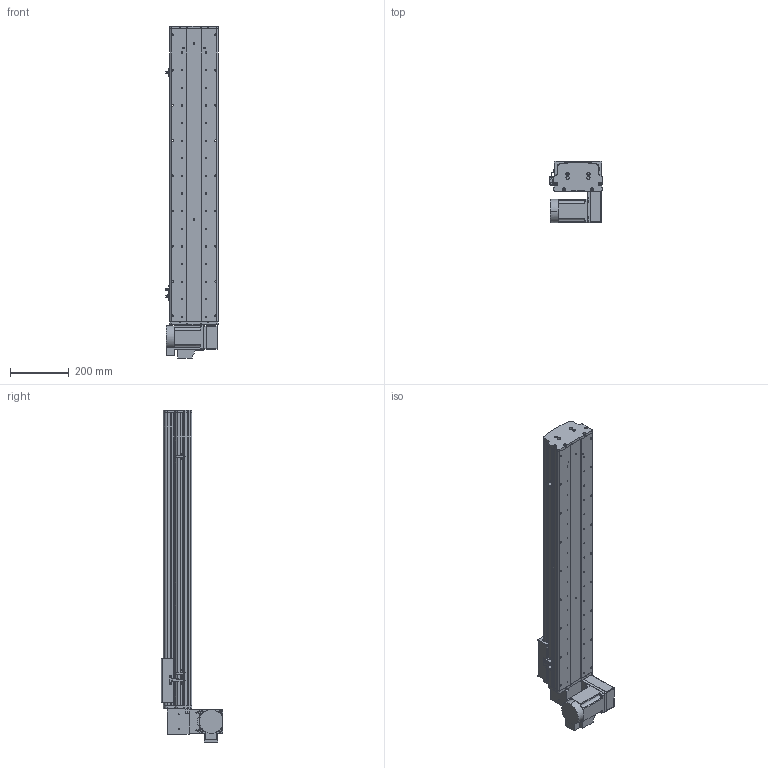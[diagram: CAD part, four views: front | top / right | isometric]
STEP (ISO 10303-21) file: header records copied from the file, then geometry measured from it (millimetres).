
FILE_DESCRIPTION (( 'STEP AP214' ), '1' );
FILE_NAME ('KSD165B-S750-MRD-CM.STEP', '2017-10-16T09:27:39', ( '微软用户' ), ( '微软中国' ), 'SwSTEP 2.0', 'SolidWorks 2014', '' );
FILE_SCHEMA (( 'AUTOMOTIVE_DESIGN' ));
Length unit declared in the file: millimetre
Products named in the file (17): 130宽模组保护罩上下左右折-同步带; HTPA26S5M250-A-H8 750W萇儂蚚; HTPA26S5M250-A-H8 400W萇儂蚚 ; KSD165模组-同步带防尘盖1-750行程-最新版; KSD165模组同步带底板-750行程-最新; 拸秶雄ん750W侜督萇儂; 165宽马达安装板同步带右; U倰嫖萇假蚾璃; U倰嫖萇EEㄜSX672; 覜茼え68遵圉猾敕; KSD165模组-同步带-防撞垫2; KSD165模组同步带-防撞垫1; KSD165耀郪-ヶ傷啣1-肮祭湍; KSD165模组-后端板1-同步带; KSD165模组-同步带滑动座-最新版; KSD165B-S750-MRD-CM; 130宽模组马达安装板连板上下折丝杆同步带
Assembly tree (20 placements, depth 2):
  KSD165B-S750-MRD-CM
    KSD165模组-同步带滑动座-最新版
    KSD165模组-后端板1-同步带
    KSD165耀郪-ヶ傷啣1-肮祭湍
    KSD165模组同步带-防撞垫1
    KSD165模组-同步带-防撞垫2
    覜茼え68遵圉猾敕
    U倰嫖萇EEㄜSX672  x3
    U倰嫖萇假蚾璃  x3
    165宽马达安装板同步带右
    拸秶雄ん750W侜督萇儂
    KSD165模组同步带底板-750行程-最新
    KSD165模组-同步带防尘盖1-750行程-最新版
    HTPA26S5M250-A-H8 400W萇儂蚚 
    HTPA26S5M250-A-H8 750W萇儂蚚
    130宽模组保护罩上下左右折-同步带
    130宽模组马达安装板连板上下折丝杆同步带
Bounding box: 178.7 x 210 x 1130.5 mm (x, y, z)
Volume: 6787659.2 mm3; surface area: 1575458.1 mm2
Topology: 21 solids, 21 shells, 1939 faces, 5472 edges, 3572 vertices
Faces by surface type: cylinder 1243, plane 584, cone 112
Entity records: 62772 total; most frequent: CARTESIAN_POINT 12868, DIRECTION 10332, ORIENTED_EDGE 9604, EDGE_CURVE 4802, AXIS2_PLACEMENT_3D 4050, VERTEX_POINT 3164, CIRCLE 2308, LINE 2232
